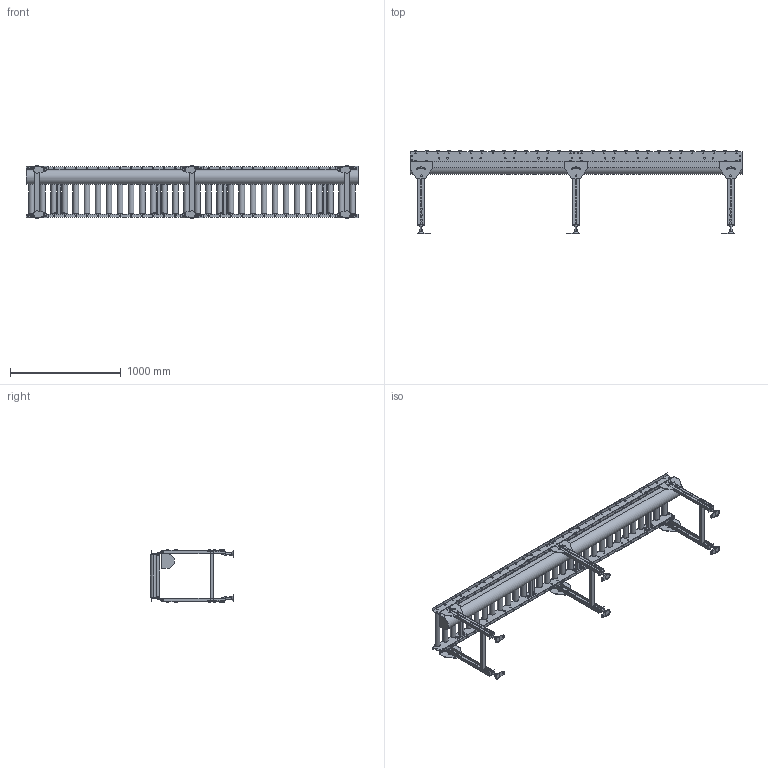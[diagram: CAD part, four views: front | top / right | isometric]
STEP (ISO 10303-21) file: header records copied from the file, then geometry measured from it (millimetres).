
FILE_DESCRIPTION (( 'STEP AP214' ), '1' );
FILE_NAME ('SWD-MCD50-ストレート-100P-400.STEP', '2022-08-01T01:52:59', ( '' ), ( '' ), 'SwSTEP 2.0', 'SolidWorks 2017', '' );
FILE_SCHEMA (( 'AUTOMOTIVE_DESIGN' ));
Length unit declared in the file: millimetre
Products named in the file (1): SWD-MCD50-ストレート-100P-400
Bounding box: 3000 x 750 x 484.4 mm (x, y, z)
Volume: 72481794 mm3; surface area: 6691937.8 mm2
Topology: 28 solids, 74 shells, 3822 faces, 10188 edges, 6472 vertices
Faces by surface type: plane 2493, cylinder 1317, cone 12
Entity records: 162845 total; most frequent: DIRECTION 21380, CARTESIAN_POINT 20879, ORIENTED_EDGE 20376, EDGE_CURVE 10188, AXIS2_PLACEMENT_3D 7381, VECTOR 6618, LINE 6618, VERTEX_POINT 6472
